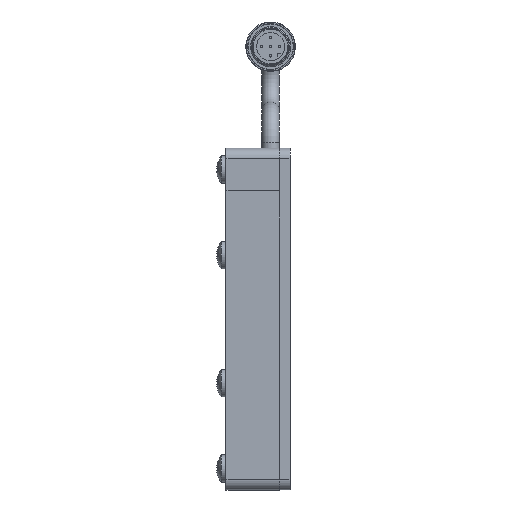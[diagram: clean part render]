
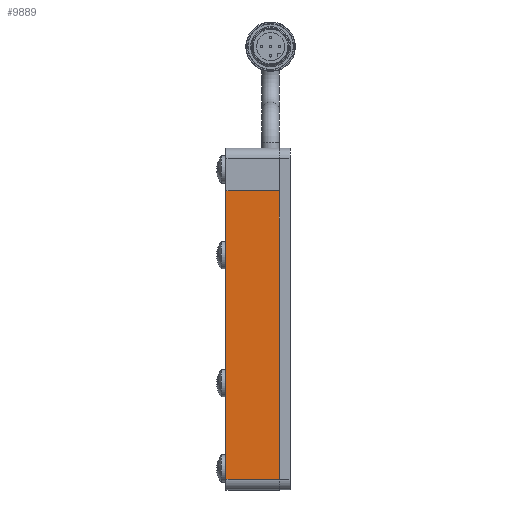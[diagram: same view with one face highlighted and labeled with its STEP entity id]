
A CAD part, left-side view. The second image highlights one B-rep face of the part: STEP entity #9889.
In plain terms, the highlighted planar face has unit normal (-1, 0, 0) as drawn and (0, 0, -1) by its records, which use the part's own axes.
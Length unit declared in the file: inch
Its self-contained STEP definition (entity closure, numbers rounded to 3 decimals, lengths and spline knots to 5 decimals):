
#406 = EDGE_CURVE ( 'NONE', #15544, #4862, #1645, .T. ) ;
#1645 = LINE ( 'NONE', #9638, #1932 ) ;
#1932 = VECTOR ( 'NONE', #14780, 39.37008 ) ;
#2411 = PLANE ( 'NONE',  #16029 ) ;
#4040 = CARTESIAN_POINT ( 'NONE',  ( -1.5, -0.3125, -0.25 ) ) ;
#4862 = VERTEX_POINT ( 'NONE', #13892 ) ;
#5351 = EDGE_LOOP ( 'NONE', ( #9411, #7380, #7566, #13509 ) ) ;
#5394 = EDGE_CURVE ( 'NONE', #5785, #16004, #7797, .T. ) ;
#5536 = CARTESIAN_POINT ( 'NONE',  ( 1.875, 0.3125, -0.25 ) ) ;
#5738 = CARTESIAN_POINT ( 'NONE',  ( 1.875, -0.3125, -0.25 ) ) ;
#5785 = VERTEX_POINT ( 'NONE', #5738 ) ;
#6277 = CARTESIAN_POINT ( 'NONE',  ( -2., 0.3125, -0.25 ) ) ;
#6726 = EDGE_CURVE ( 'NONE', #16004, #4862, #10727, .T. ) ;
#6865 = VECTOR ( 'NONE', #11860, 39.37008 ) ;
#7380 = ORIENTED_EDGE ( 'NONE', *, *, #14249, .T. ) ;
#7566 = ORIENTED_EDGE ( 'NONE', *, *, #5394, .T. ) ;
#7797 = LINE ( 'NONE', #7879, #12806 ) ;
#7879 = CARTESIAN_POINT ( 'NONE',  ( -2., -0.3125, -0.25 ) ) ;
#9145 = DIRECTION ( 'NONE',  ( -1., 0., 0. ) ) ;
#9411 = ORIENTED_EDGE ( 'NONE', *, *, #406, .F. ) ;
#9638 = CARTESIAN_POINT ( 'NONE',  ( -2., 0.3125, -0.25 ) ) ;
#9889 = ADVANCED_FACE ( 'NONE', ( #12666 ), #2411, .F. ) ;
#10150 = DIRECTION ( 'NONE',  ( 0., 0., 1. ) ) ;
#10727 = LINE ( 'NONE', #4040, #14505 ) ;
#11348 = CARTESIAN_POINT ( 'NONE',  ( 1.875, 0.3125, -0.25 ) ) ;
#11455 = CARTESIAN_POINT ( 'NONE',  ( -1.5, -0.3125, -0.25 ) ) ;
#11860 = DIRECTION ( 'NONE',  ( 0., -1., 0. ) ) ;
#12666 = FACE_OUTER_BOUND ( 'NONE', #5351, .T. ) ;
#12806 = VECTOR ( 'NONE', #9145, 39.37008 ) ;
#13509 = ORIENTED_EDGE ( 'NONE', *, *, #6726, .T. ) ;
#13892 = CARTESIAN_POINT ( 'NONE',  ( -1.5, 0.3125, -0.25 ) ) ;
#14249 = EDGE_CURVE ( 'NONE', #15544, #5785, #14405, .T. ) ;
#14405 = LINE ( 'NONE', #5536, #6865 ) ;
#14505 = VECTOR ( 'NONE', #15856, 39.37008 ) ;
#14780 = DIRECTION ( 'NONE',  ( -1., 0., 0. ) ) ;
#15291 = DIRECTION ( 'NONE',  ( 1., 0., 0. ) ) ;
#15544 = VERTEX_POINT ( 'NONE', #11348 ) ;
#15856 = DIRECTION ( 'NONE',  ( 0., 1., 0. ) ) ;
#16004 = VERTEX_POINT ( 'NONE', #11455 ) ;
#16029 = AXIS2_PLACEMENT_3D ( 'NONE', #6277, #10150, #15291 ) ;
